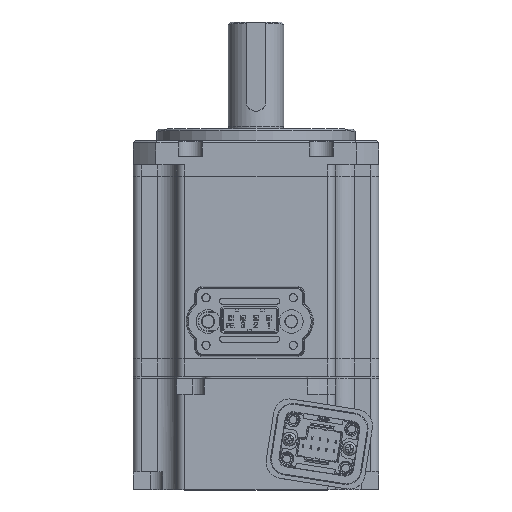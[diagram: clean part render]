
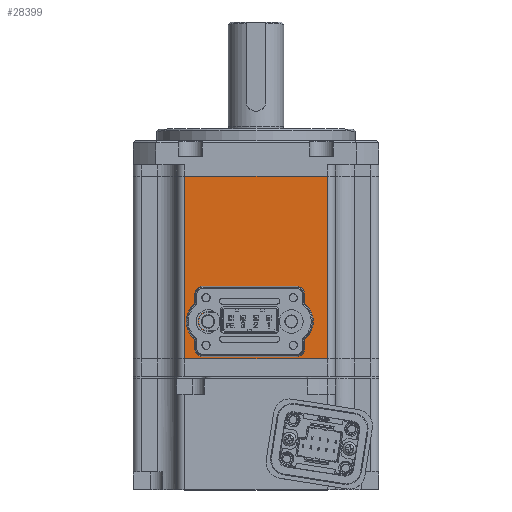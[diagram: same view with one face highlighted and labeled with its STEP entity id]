
A CAD part, top view. The second image highlights one B-rep face of the part: STEP entity #28399.
In plain terms, the highlighted planar face has unit normal (0, 0, 1).
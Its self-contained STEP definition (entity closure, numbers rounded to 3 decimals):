
#1177=PLANE('',#30045);
#1892=FACE_BOUND('',#4611,.T.);
#1893=FACE_BOUND('',#4612,.T.);
#1894=FACE_BOUND('',#4613,.T.);
#1895=FACE_BOUND('',#4614,.T.);
#1896=FACE_BOUND('',#4615,.T.);
#1897=FACE_BOUND('',#4616,.T.);
#1898=FACE_BOUND('',#4617,.T.);
#3005=FACE_OUTER_BOUND('',#4610,.T.);
#4610=EDGE_LOOP('',(#22840,#22841,#22842,#22843));
#4611=EDGE_LOOP('',(#22844));
#4612=EDGE_LOOP('',(#22845));
#4613=EDGE_LOOP('',(#22846));
#4614=EDGE_LOOP('',(#22847));
#4615=EDGE_LOOP('',(#22848));
#4616=EDGE_LOOP('',(#22849));
#4617=EDGE_LOOP('',(#22850,#22851,#22852,#22853,#22854,#22855,#22856,#22857));
#6796=LINE('',#48742,#9797);
#6797=LINE('',#48746,#9798);
#6798=LINE('',#48748,#9799);
#6799=LINE('',#48749,#9800);
#6800=LINE('',#48752,#9801);
#6801=LINE('',#48756,#9802);
#6802=LINE('',#48760,#9803);
#6803=LINE('',#48764,#9804);
#9797=VECTOR('',#34067,46.);
#9798=VECTOR('',#34072,36.);
#9799=VECTOR('',#34073,46.);
#9800=VECTOR('',#34074,36.);
#9801=VECTOR('',#34075,9.1);
#9802=VECTOR('',#34078,6.8);
#9803=VECTOR('',#34081,9.1);
#9804=VECTOR('',#34084,6.8);
#11895=CIRCLE('',#30007,1.);
#11897=CIRCLE('',#30010,1.5);
#11899=CIRCLE('',#30013,1.);
#11901=CIRCLE('',#30016,1.);
#11903=CIRCLE('',#30019,1.5);
#11905=CIRCLE('',#30022,1.);
#11914=CIRCLE('',#30046,2.);
#11915=CIRCLE('',#30047,2.);
#11916=CIRCLE('',#30048,2.);
#11917=CIRCLE('',#30049,2.);
#13419=VERTEX_POINT('',#48630);
#13421=VERTEX_POINT('',#48635);
#13423=VERTEX_POINT('',#48640);
#13425=VERTEX_POINT('',#48645);
#13427=VERTEX_POINT('',#48650);
#13429=VERTEX_POINT('',#48655);
#13458=VERTEX_POINT('',#48739);
#13459=VERTEX_POINT('',#48741);
#13460=VERTEX_POINT('',#48745);
#13461=VERTEX_POINT('',#48747);
#13462=VERTEX_POINT('',#48750);
#13463=VERTEX_POINT('',#48751);
#13464=VERTEX_POINT('',#48753);
#13465=VERTEX_POINT('',#48755);
#13466=VERTEX_POINT('',#48757);
#13467=VERTEX_POINT('',#48759);
#13468=VERTEX_POINT('',#48761);
#13469=VERTEX_POINT('',#48763);
#16923=EDGE_CURVE('',#13419,#13419,#11895,.T.);
#16925=EDGE_CURVE('',#13421,#13421,#11897,.T.);
#16927=EDGE_CURVE('',#13423,#13423,#11899,.T.);
#16929=EDGE_CURVE('',#13425,#13425,#11901,.T.);
#16931=EDGE_CURVE('',#13427,#13427,#11903,.T.);
#16933=EDGE_CURVE('',#13429,#13429,#11905,.T.);
#16975=EDGE_CURVE('',#13459,#13458,#6796,.T.);
#16977=EDGE_CURVE('',#13458,#13460,#6797,.T.);
#16978=EDGE_CURVE('',#13461,#13460,#6798,.T.);
#16979=EDGE_CURVE('',#13459,#13461,#6799,.T.);
#16980=EDGE_CURVE('',#13462,#13463,#6800,.T.);
#16981=EDGE_CURVE('',#13464,#13462,#11914,.T.);
#16982=EDGE_CURVE('',#13465,#13464,#6801,.T.);
#16983=EDGE_CURVE('',#13466,#13465,#11915,.T.);
#16984=EDGE_CURVE('',#13467,#13466,#6802,.T.);
#16985=EDGE_CURVE('',#13468,#13467,#11916,.T.);
#16986=EDGE_CURVE('',#13469,#13468,#6803,.T.);
#16987=EDGE_CURVE('',#13463,#13469,#11917,.T.);
#22840=ORIENTED_EDGE('',*,*,#16977,.T.);
#22841=ORIENTED_EDGE('',*,*,#16978,.F.);
#22842=ORIENTED_EDGE('',*,*,#16979,.F.);
#22843=ORIENTED_EDGE('',*,*,#16975,.T.);
#22844=ORIENTED_EDGE('',*,*,#16923,.F.);
#22845=ORIENTED_EDGE('',*,*,#16925,.F.);
#22846=ORIENTED_EDGE('',*,*,#16927,.F.);
#22847=ORIENTED_EDGE('',*,*,#16929,.F.);
#22848=ORIENTED_EDGE('',*,*,#16931,.F.);
#22849=ORIENTED_EDGE('',*,*,#16933,.F.);
#22850=ORIENTED_EDGE('',*,*,#16980,.F.);
#22851=ORIENTED_EDGE('',*,*,#16981,.F.);
#22852=ORIENTED_EDGE('',*,*,#16982,.F.);
#22853=ORIENTED_EDGE('',*,*,#16983,.F.);
#22854=ORIENTED_EDGE('',*,*,#16984,.F.);
#22855=ORIENTED_EDGE('',*,*,#16985,.F.);
#22856=ORIENTED_EDGE('',*,*,#16986,.F.);
#22857=ORIENTED_EDGE('',*,*,#16987,.F.);
#28399=ADVANCED_FACE('',(#3005,#1892,#1893,#1894,#1895,#1896,#1897,#1898),
#1177,.F.);
#30007=AXIS2_PLACEMENT_3D('',#48631,#33959,#33960);
#30010=AXIS2_PLACEMENT_3D('',#48636,#33965,#33966);
#30013=AXIS2_PLACEMENT_3D('',#48641,#33971,#33972);
#30016=AXIS2_PLACEMENT_3D('',#48646,#33977,#33978);
#30019=AXIS2_PLACEMENT_3D('',#48651,#33983,#33984);
#30022=AXIS2_PLACEMENT_3D('',#48656,#33989,#33990);
#30045=AXIS2_PLACEMENT_3D('',#48744,#34070,#34071);
#30046=AXIS2_PLACEMENT_3D('',#48754,#34076,#34077);
#30047=AXIS2_PLACEMENT_3D('',#48758,#34079,#34080);
#30048=AXIS2_PLACEMENT_3D('',#48762,#34082,#34083);
#30049=AXIS2_PLACEMENT_3D('',#48765,#34085,#34086);
#33959=DIRECTION('center_axis',(0.,0.,1.));
#33960=DIRECTION('ref_axis',(1.,0.,0.));
#33965=DIRECTION('center_axis',(0.,0.,1.));
#33966=DIRECTION('ref_axis',(1.,0.,0.));
#33971=DIRECTION('center_axis',(0.,0.,1.));
#33972=DIRECTION('ref_axis',(1.,0.,0.));
#33977=DIRECTION('center_axis',(0.,0.,1.));
#33978=DIRECTION('ref_axis',(1.,0.,0.));
#33983=DIRECTION('center_axis',(0.,0.,1.));
#33984=DIRECTION('ref_axis',(1.,0.,0.));
#33989=DIRECTION('center_axis',(0.,0.,1.));
#33990=DIRECTION('ref_axis',(1.,0.,0.));
#34067=DIRECTION('',(0.,-1.,0.));
#34070=DIRECTION('center_axis',(0.,0.,-1.));
#34071=DIRECTION('ref_axis',(-1.,0.,0.));
#34072=DIRECTION('',(1.,0.,0.));
#34073=DIRECTION('',(0.,-1.,0.));
#34074=DIRECTION('',(1.,0.,0.));
#34075=DIRECTION('',(1.,0.,0.));
#34076=DIRECTION('center_axis',(0.,0.,1.));
#34077=DIRECTION('ref_axis',(1.,0.,0.));
#34078=DIRECTION('',(0.,-1.,0.));
#34079=DIRECTION('center_axis',(0.,0.,1.));
#34080=DIRECTION('ref_axis',(1.,0.,0.));
#34081=DIRECTION('',(-1.,0.,0.));
#34082=DIRECTION('center_axis',(0.,0.,1.));
#34083=DIRECTION('ref_axis',(1.,0.,0.));
#34084=DIRECTION('',(0.,1.,0.));
#34085=DIRECTION('center_axis',(0.,0.,1.));
#34086=DIRECTION('ref_axis',(1.,0.,0.));
#48630=CARTESIAN_POINT('',(10.4,-51.6,31.));
#48631=CARTESIAN_POINT('Origin',(9.4,-51.6,31.));
#48635=CARTESIAN_POINT('',(10.4,-45.6,31.));
#48636=CARTESIAN_POINT('Origin',(8.9,-45.6,31.));
#48640=CARTESIAN_POINT('',(10.4,-39.6,31.));
#48641=CARTESIAN_POINT('Origin',(9.4,-39.6,31.));
#48645=CARTESIAN_POINT('',(-11.6,-51.6,31.));
#48646=CARTESIAN_POINT('Origin',(-12.6,-51.6,31.));
#48650=CARTESIAN_POINT('',(-10.6,-45.6,31.));
#48651=CARTESIAN_POINT('Origin',(-12.1,-45.6,31.));
#48655=CARTESIAN_POINT('',(-11.6,-39.6,31.));
#48656=CARTESIAN_POINT('Origin',(-12.6,-39.6,31.));
#48739=CARTESIAN_POINT('',(-18.,-55.,31.));
#48741=CARTESIAN_POINT('',(-18.,-9.,31.));
#48742=CARTESIAN_POINT('',(-18.,-9.,31.));
#48744=CARTESIAN_POINT('Origin',(18.,-9.,31.));
#48745=CARTESIAN_POINT('',(18.,-55.,31.));
#48746=CARTESIAN_POINT('',(18.,-55.,31.));
#48747=CARTESIAN_POINT('',(18.,-9.,31.));
#48748=CARTESIAN_POINT('',(18.,-9.,31.));
#48749=CARTESIAN_POINT('',(18.,-9.,31.));
#48750=CARTESIAN_POINT('',(-5.,-51.,31.));
#48751=CARTESIAN_POINT('',(4.1,-51.,31.));
#48752=CARTESIAN_POINT('',(-5.,-51.,31.));
#48753=CARTESIAN_POINT('',(-7.,-49.,31.));
#48754=CARTESIAN_POINT('Origin',(-5.,-49.,31.));
#48755=CARTESIAN_POINT('',(-7.,-42.2,31.));
#48756=CARTESIAN_POINT('',(-7.,-42.2,31.));
#48757=CARTESIAN_POINT('',(-5.,-40.2,31.));
#48758=CARTESIAN_POINT('Origin',(-5.,-42.2,31.));
#48759=CARTESIAN_POINT('',(4.1,-40.2,31.));
#48760=CARTESIAN_POINT('',(-5.,-40.2,31.));
#48761=CARTESIAN_POINT('',(6.1,-42.2,31.));
#48762=CARTESIAN_POINT('Origin',(4.1,-42.2,31.));
#48763=CARTESIAN_POINT('',(6.1,-49.,31.));
#48764=CARTESIAN_POINT('',(6.1,-42.2,31.));
#48765=CARTESIAN_POINT('Origin',(4.1,-49.,31.));
